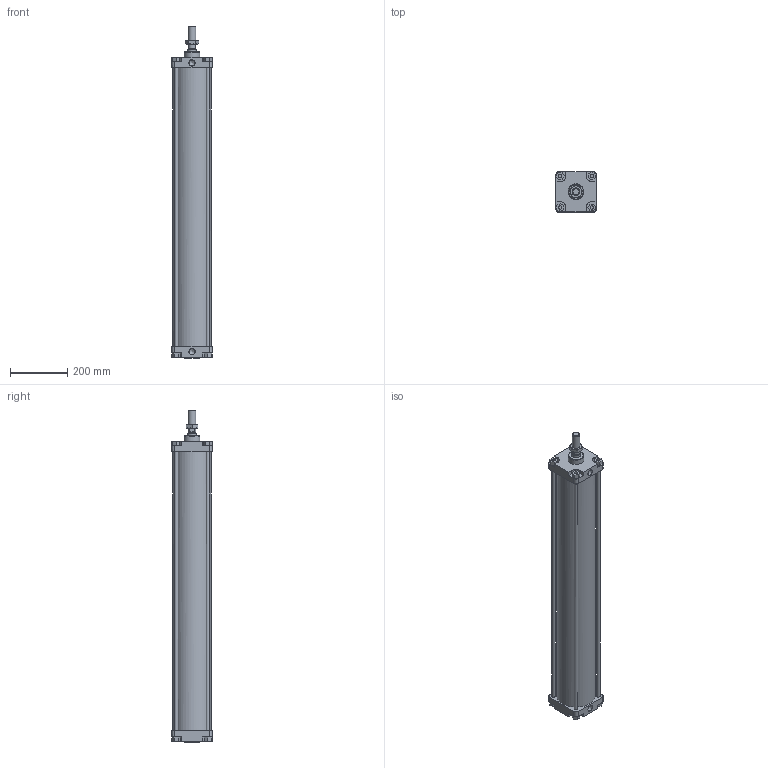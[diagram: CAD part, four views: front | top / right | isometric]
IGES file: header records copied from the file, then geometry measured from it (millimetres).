
Global section: file name: 1303_125_0900_01A; native system: Autodesk Inventor 2014; preprocessor: unknown; author: A. Manieri; date: 20161124.141647; units: millimetre
Bounding box: 140 x 140 x 1158 mm (x, y, z)
Volume: 4958380.7 mm3; surface area: 1241550.7 mm2
Topology: 9 solids, 9 shells, 175 faces, 440 edges, 295 vertices
Faces by surface type: bspline 175
